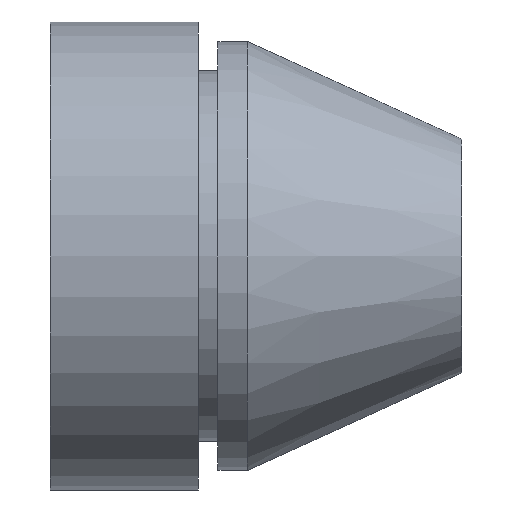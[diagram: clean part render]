
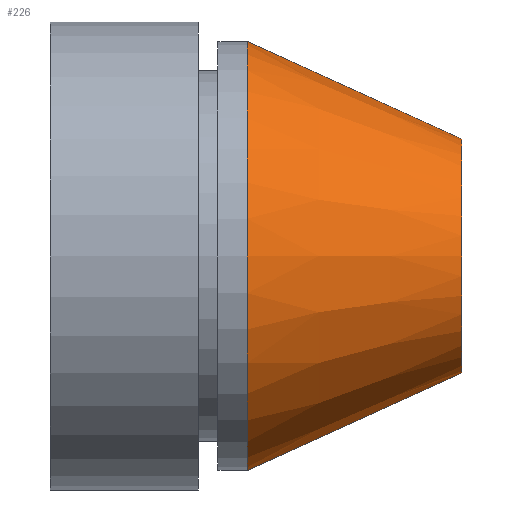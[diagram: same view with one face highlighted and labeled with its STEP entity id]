
A CAD part, left-side view. The second image highlights one B-rep face of the part: STEP entity #226.
In plain terms, the highlighted conical face has half-angle 24.444 degrees and reference radius 6 mm.
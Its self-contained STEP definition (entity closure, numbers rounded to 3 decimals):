
#2 = EDGE_CURVE ( 'NONE', #77, #100, #38, .T. ) ;
#3 = EDGE_CURVE ( 'NONE', #48, #86, #305, .T. ) ;
#4 = EDGE_CURVE ( 'NONE', #48, #77, #322, .T. ) ;
#5 = EDGE_CURVE ( 'NONE', #86, #100, #302, .T. ) ;
#13 = AXIS2_PLACEMENT_3D ( 'NONE', #247, #261, #262 ) ;
#14 = AXIS2_PLACEMENT_3D ( 'NONE', #259, #257, #260 ) ;
#38 = LINE ( 'NONE', #263, #51 ) ;
#48 = VERTEX_POINT ( 'NONE', #133 ) ;
#51 = VECTOR ( 'NONE', #256, 1000. ) ;
#56 = ORIENTED_EDGE ( 'NONE', *, *, #2, .F. ) ;
#65 = ORIENTED_EDGE ( 'NONE', *, *, #4, .F. ) ;
#66 = EDGE_LOOP ( 'NONE', ( #56, #65, #67, #89 ) ) ;
#67 = ORIENTED_EDGE ( 'NONE', *, *, #3, .T. ) ;
#77 = VERTEX_POINT ( 'NONE', #151 ) ;
#86 = VERTEX_POINT ( 'NONE', #138 ) ;
#89 = ORIENTED_EDGE ( 'NONE', *, *, #5, .T. ) ;
#100 = VERTEX_POINT ( 'NONE', #145 ) ;
#118 = AXIS2_PLACEMENT_3D ( 'NONE', #208, #205, #209 ) ;
#133 = CARTESIAN_POINT ( 'NONE',  ( 0., 0., 6. ) ) ;
#138 = CARTESIAN_POINT ( 'NONE',  ( 0., 11., 11. ) ) ;
#145 = CARTESIAN_POINT ( 'NONE',  ( 0., 11., -11. ) ) ;
#151 = CARTESIAN_POINT ( 'NONE',  ( 0., 0., -6. ) ) ;
#205 = DIRECTION ( 'NONE',  ( 0., 1., 0. ) ) ;
#208 = CARTESIAN_POINT ( 'NONE',  ( 0., 0., 0. ) ) ;
#209 = DIRECTION ( 'NONE',  ( 0., 0., 1. ) ) ;
#226 = ADVANCED_FACE ( 'NONE', ( #312 ), #317, .T. ) ;
#246 = CARTESIAN_POINT ( 'NONE',  ( 0., 0., 6. ) ) ;
#247 = CARTESIAN_POINT ( 'NONE',  ( 0., 0., 0. ) ) ;
#255 = DIRECTION ( 'NONE',  ( 0., 0.91, 0.414 ) ) ;
#256 = DIRECTION ( 'NONE',  ( 0., 0.91, -0.414 ) ) ;
#257 = DIRECTION ( 'NONE',  ( 0., -1., 0. ) ) ;
#259 = CARTESIAN_POINT ( 'NONE',  ( 0., 11., 0. ) ) ;
#260 = DIRECTION ( 'NONE',  ( 0., 0., -1. ) ) ;
#261 = DIRECTION ( 'NONE',  ( 0., -1., 0. ) ) ;
#262 = DIRECTION ( 'NONE',  ( 0., 0., -1. ) ) ;
#263 = CARTESIAN_POINT ( 'NONE',  ( 0., 0., -6. ) ) ;
#302 = CIRCLE ( 'NONE', #14, 11. ) ;
#305 = LINE ( 'NONE', #246, #306 ) ;
#306 = VECTOR ( 'NONE', #255, 1000. ) ;
#312 = FACE_OUTER_BOUND ( 'NONE', #66, .T. ) ;
#317 = CONICAL_SURFACE ( 'NONE', #118, 6., 0.427 ) ;
#322 = CIRCLE ( 'NONE', #13, 6. ) ;
